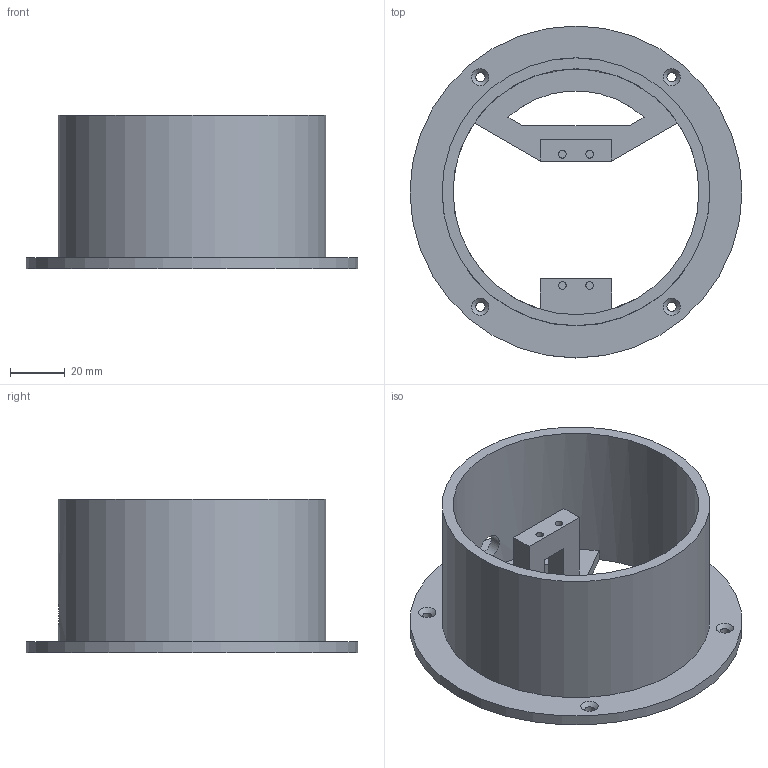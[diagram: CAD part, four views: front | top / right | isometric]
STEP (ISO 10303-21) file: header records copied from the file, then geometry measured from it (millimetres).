
FILE_DESCRIPTION(/* description */ (''),/* implementation_level */ '2;1');
FILE_NAME(/* name */ 'Base.step',/* time_stamp */ '2024-01-03T12:00:06+05:30',/* author */ (''),/* organization */ (''),/* preprocessor_version */ 'ST-DEVELOPER v20',/* originating_system */ 'Autodesk Translation Framework v12.14.0.127',/* authorisation */ '');
FILE_SCHEMA (('AUTOMOTIVE_DESIGN { 1 0 10303 214 3 1 1 }'));
Length unit declared in the file: millimetre
Products named in the file (1): Base
Bounding box: 121.5 x 121.5 x 56 mm (x, y, z)
Volume: 94594.9 mm3; surface area: 50285.4 mm2
Topology: 1 solids, 1 shells, 44 faces, 104 edges, 68 vertices
Faces by surface type: plane 27, cylinder 13, cone 4
Full cylindrical faces by diameter (mm): 2.8 x4, 3.4 x4, 10 x1, 90 x1, 98 x1, 121.5 x1
Entity records: 1395 total; most frequent: CARTESIAN_POINT 287, DIRECTION 222, ORIENTED_EDGE 208, EDGE_CURVE 104, AXIS2_PLACEMENT_3D 77, LINE 68, VECTOR 68, VERTEX_POINT 68
